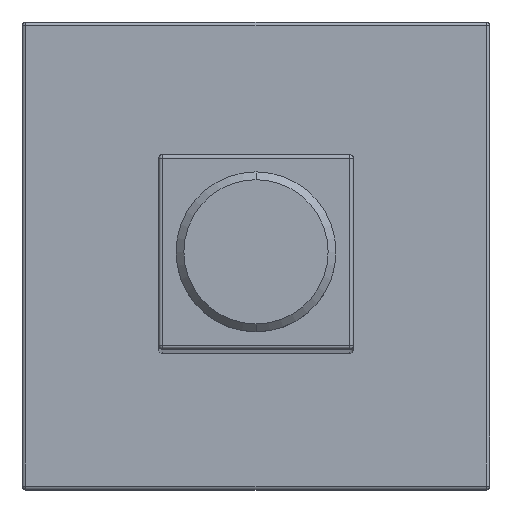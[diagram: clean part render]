
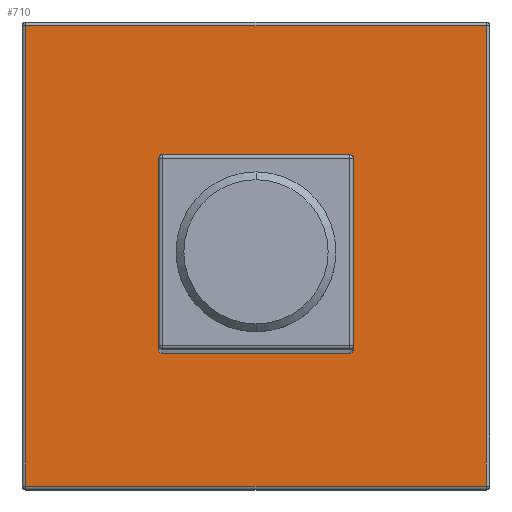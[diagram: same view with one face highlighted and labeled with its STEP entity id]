
A CAD part, top view. The second image highlights one B-rep face of the part: STEP entity #710.
In plain terms, the highlighted planar face has unit normal (0, 0, 1).
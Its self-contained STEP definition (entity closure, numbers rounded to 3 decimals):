
#62=DIRECTION('',(0.,-1.,0.));
#63=VECTOR('',#62,59.);
#64=CARTESIAN_POINT('',(-29.5,29.5,7.));
#65=LINE('',#64,#63);
#66=DIRECTION('',(-1.,0.,0.));
#67=VECTOR('',#66,59.);
#68=CARTESIAN_POINT('',(29.5,29.5,7.));
#69=LINE('',#68,#67);
#70=DIRECTION('',(0.,1.,0.));
#71=VECTOR('',#70,59.);
#72=CARTESIAN_POINT('',(29.5,-29.5,7.));
#73=LINE('',#72,#71);
#74=DIRECTION('',(1.,0.,0.));
#75=VECTOR('',#74,59.);
#76=CARTESIAN_POINT('',(-29.5,-29.5,7.));
#77=LINE('',#76,#75);
#179=DIRECTION('',(0.,-1.,0.));
#180=VECTOR('',#179,24.);
#181=CARTESIAN_POINT('',(12.5,12.,7.));
#182=LINE('',#181,#180);
#233=CARTESIAN_POINT('',(12.,-12.,7.));
#234=DIRECTION('',(0.,0.,-1.));
#235=DIRECTION('',(1.,0.,0.));
#236=AXIS2_PLACEMENT_3D('',#233,#234,#235);
#246=DIRECTION('',(1.,0.,0.));
#247=VECTOR('',#246,24.);
#248=CARTESIAN_POINT('',(-12.,-12.5,7.));
#249=LINE('',#248,#247);
#259=CARTESIAN_POINT('',(-12.,-12.,7.));
#260=DIRECTION('',(0.,0.,-1.));
#261=DIRECTION('',(0.,-1.,0.));
#262=AXIS2_PLACEMENT_3D('',#259,#260,#261);
#282=DIRECTION('',(0.,-1.,0.));
#283=VECTOR('',#282,24.);
#284=CARTESIAN_POINT('',(-12.5,12.,7.));
#285=LINE('',#284,#283);
#295=CARTESIAN_POINT('',(-12.,12.,7.));
#296=DIRECTION('',(0.,0.,-1.));
#297=DIRECTION('',(-1.,0.,0.));
#298=AXIS2_PLACEMENT_3D('',#295,#296,#297);
#318=DIRECTION('',(-1.,0.,0.));
#319=VECTOR('',#318,24.);
#320=CARTESIAN_POINT('',(12.,12.5,7.));
#321=LINE('',#320,#319);
#331=CARTESIAN_POINT('',(12.,12.,7.));
#332=DIRECTION('',(0.,0.,-1.));
#333=DIRECTION('',(0.,1.,0.));
#334=AXIS2_PLACEMENT_3D('',#331,#332,#333);
#525=CARTESIAN_POINT('',(-29.5,29.5,7.));
#526=CARTESIAN_POINT('',(-29.5,-29.5,7.));
#527=VERTEX_POINT('',#525);
#528=VERTEX_POINT('',#526);
#533=CARTESIAN_POINT('',(29.5,-29.5,7.));
#534=VERTEX_POINT('',#533);
#539=CARTESIAN_POINT('',(29.5,29.5,7.));
#540=VERTEX_POINT('',#539);
#545=CARTESIAN_POINT('',(-12.5,12.,7.));
#546=CARTESIAN_POINT('',(-12.5,-12.,7.));
#547=VERTEX_POINT('',#545);
#548=VERTEX_POINT('',#546);
#549=CARTESIAN_POINT('',(-12.,-12.5,7.));
#550=CARTESIAN_POINT('',(12.,-12.5,7.));
#551=VERTEX_POINT('',#549);
#552=VERTEX_POINT('',#550);
#553=CARTESIAN_POINT('',(12.5,12.,7.));
#554=CARTESIAN_POINT('',(12.5,-12.,7.));
#555=VERTEX_POINT('',#553);
#556=VERTEX_POINT('',#554);
#557=CARTESIAN_POINT('',(12.,12.5,7.));
#558=CARTESIAN_POINT('',(-12.,12.5,7.));
#559=VERTEX_POINT('',#557);
#560=VERTEX_POINT('',#558);
#678=CARTESIAN_POINT('',(0.,0.,7.));
#679=DIRECTION('',(0.,0.,-1.));
#680=DIRECTION('',(-1.,0.,0.));
#681=AXIS2_PLACEMENT_3D('',#678,#679,#680);
#682=PLANE('',#681);
#684=ORIENTED_EDGE('',*,*,#683,.F.);
#685=ORIENTED_EDGE('',*,*,#668,.F.);
#687=ORIENTED_EDGE('',*,*,#686,.F.);
#689=ORIENTED_EDGE('',*,*,#688,.F.);
#690=EDGE_LOOP('',(#684,#685,#687,#689));
#691=FACE_OUTER_BOUND('',#690,.F.);
#693=ORIENTED_EDGE('',*,*,#692,.F.);
#695=ORIENTED_EDGE('',*,*,#694,.F.);
#697=ORIENTED_EDGE('',*,*,#696,.T.);
#699=ORIENTED_EDGE('',*,*,#698,.F.);
#701=ORIENTED_EDGE('',*,*,#700,.T.);
#703=ORIENTED_EDGE('',*,*,#702,.F.);
#705=ORIENTED_EDGE('',*,*,#704,.T.);
#707=ORIENTED_EDGE('',*,*,#706,.F.);
#708=EDGE_LOOP('',(#693,#695,#697,#699,#701,#703,#705,#707));
#709=FACE_BOUND('',#708,.F.);
#710=ADVANCED_FACE('',(#691,#709),#682,.F.);
#237=CIRCLE('',#236,0.5);
#263=CIRCLE('',#262,0.5);
#299=CIRCLE('',#298,0.5);
#335=CIRCLE('',#334,0.5);
#668=EDGE_CURVE('',#540,#527,#69,.T.);
#683=EDGE_CURVE('',#527,#528,#65,.T.);
#686=EDGE_CURVE('',#534,#540,#73,.T.);
#688=EDGE_CURVE('',#528,#534,#77,.T.);
#692=EDGE_CURVE('',#555,#556,#182,.T.);
#694=EDGE_CURVE('',#559,#555,#335,.T.);
#696=EDGE_CURVE('',#559,#560,#321,.T.);
#698=EDGE_CURVE('',#547,#560,#299,.T.);
#700=EDGE_CURVE('',#547,#548,#285,.T.);
#702=EDGE_CURVE('',#551,#548,#263,.T.);
#704=EDGE_CURVE('',#551,#552,#249,.T.);
#706=EDGE_CURVE('',#556,#552,#237,.T.);
